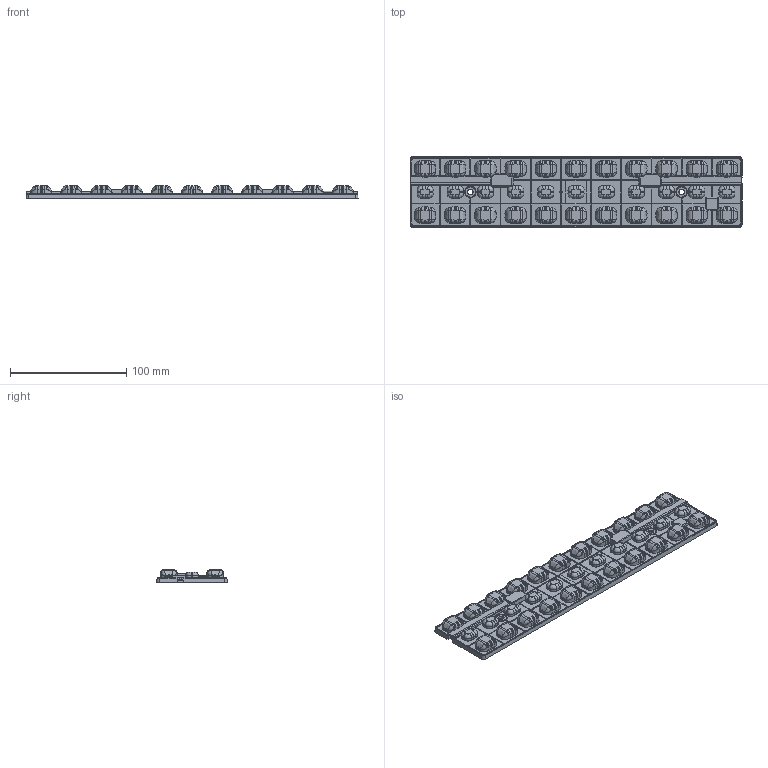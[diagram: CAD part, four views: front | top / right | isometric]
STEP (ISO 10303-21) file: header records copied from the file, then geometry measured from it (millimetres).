
FILE_DESCRIPTION(('CATIA V5 STEP Exchange'),'2;1');
FILE_NAME('Z:\Engineering\Design Library\Florence\5-Mech_models\F14170_FLORENCE-ZT25 (reference pcb)_mechanicalmodel_20140113_mav.stp','2014-01-13T12:42:22+00:00',('none'),('none'),'Version 5-6 Release 2013','CATIA V5 STEP AP203','none');
FILE_SCHEMA(('CONFIG_CONTROL_DESIGN'));
Products named in the file (1): F14170
Bounding box: 286 x 61 x 10.97 mm (x, y, z)
Volume: 98211.3 mm3; surface area: 83133.4 mm2
Topology: 4 solids, 4 shells, 3796 faces, 9584 edges, 5781 vertices
Faces by surface type: bspline 1481, plane 841, extrusion 493, cylinder 479, sphere 163, cone 142, revolution 101, torus 96
Entity records: 267935 total; most frequent: CARTESIAN_POINT 196519, ORIENTED_EDGE 18926, EDGE_CURVE 9463, DIRECTION 6900, B_SPLINE_CURVE_WITH_KNOTS 6144, VERTEX_POINT 5781, EDGE_LOOP 3918, ADVANCED_FACE 3796
